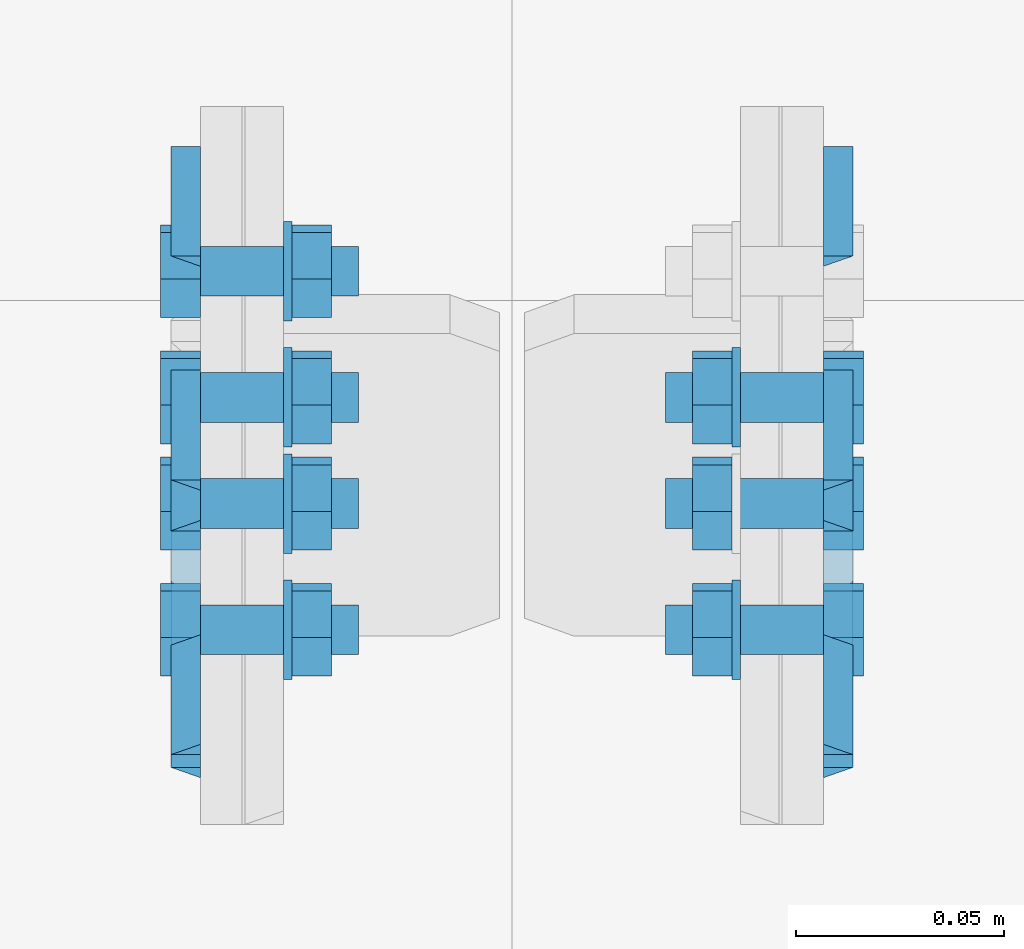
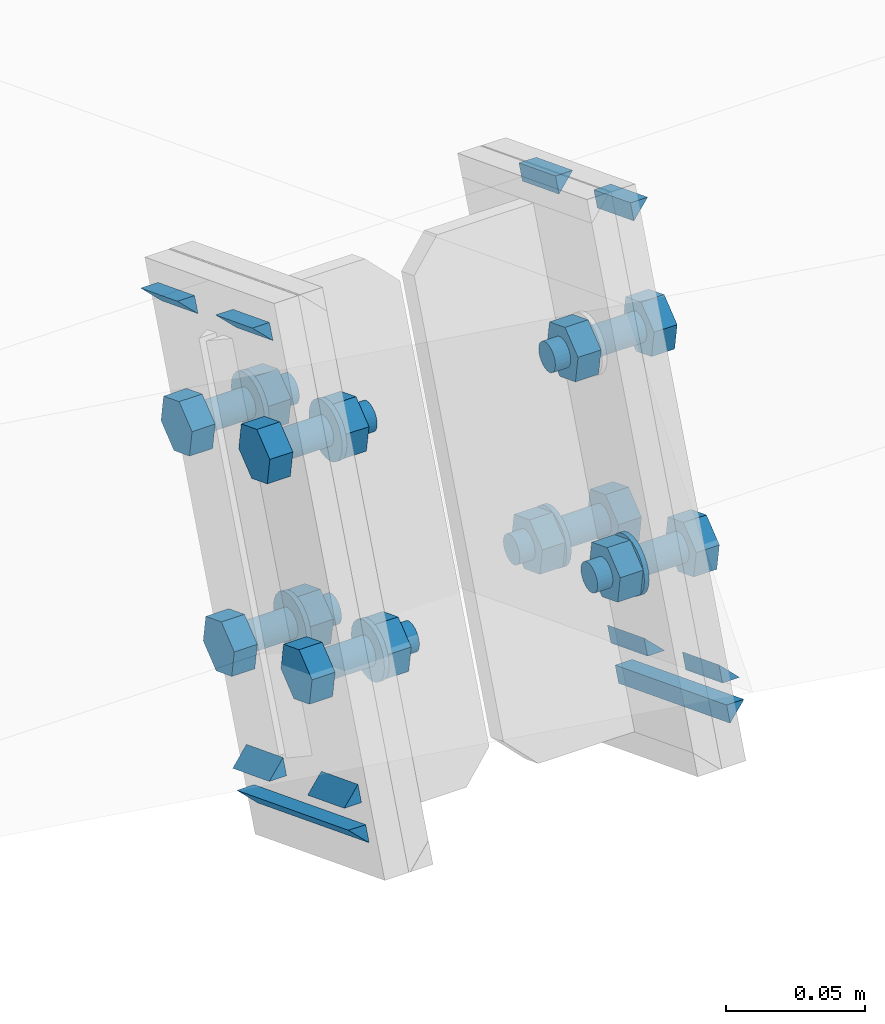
# One storey, part 31 of 72: 27 mechanical fasteners, 20 fasteners.
"""IFC4 building model written with IfcOpenShell, lengths in metres."""

from ifc_helpers import new_model, si_unit, frame, origin_with_axes, place, context, project, spatial, polyline, outline, extrude, type_object, element, save


model = new_model("IFC4")

# Units and contexts
model_context = context("Model", 3, precision=1e-05, world=origin_with_axes())
ifc_project = project(units=[si_unit("LENGTHUNIT", "METRE"), si_unit("AREAUNIT", "SQUARE_METRE"), si_unit("VOLUMEUNIT", "CUBIC_METRE"), si_unit("MASSUNIT", "GRAM", prefix="KILO"), si_unit("TIMEUNIT", "SECOND"), si_unit("PLANEANGLEUNIT", "RADIAN"), si_unit("SOLIDANGLEUNIT", "STERADIAN"), si_unit("THERMODYNAMICTEMPERATUREUNIT", "DEGREE_CELSIUS")], contexts=[model_context])

# Site, building, storey
placement_1 = place(None, origin_with_axes())
site = spatial("IfcSite", under=ifc_project, at=placement_1, Name="Italia", CompositionType="ELEMENT")
building = spatial("IfcBuilding", under=site, at=placement_1, Name="Uffici", CompositionType="ELEMENT")
storey = spatial("IfcBuildingStorey", under=building, at=placement_1, Name="Storey 0", CompositionType="ELEMENT", Elevation=0.0)

# Fasteners
fastener_type_1 = type_object("IfcFastenerType", Name="Collegamento -017_-016", PredefinedType="WELD")
placement_2 = place(placement_1, origin_with_axes())
fastener_1_placement = place(placement_2, origin_with_axes())
element("IfcFastener", 1, at=fastener_1_placement, inside=storey, type_object=fastener_type_1, Name="Collegamento -017_-016", context=model_context, shape_type="SweptSolid", body=[
    extrude(outline(polyline([(0.0, 0.0), (-0.00717354, 0.00695848), (0.0, 0.00695848), (0.0, 0.0)])), frame((3.13005, 3.30124, 5.94341), z_axis=(0.0, -0.93237841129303, 0.361483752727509), x_axis=(1.0, 0.0, 0.0)), (0.0, 0.0, 1.0), 0.0283002),
])
fastener_type_2 = type_object("IfcFastenerType", Name="Collegamento -017_-016", PredefinedType="WELD")
fastener_2_placement = place(placement_2, origin_with_axes())
element("IfcFastener", 2, at=fastener_2_placement, inside=storey, type_object=fastener_type_2, Name="Collegamento -017_-016", context=model_context, shape_type="SweptSolid", body=[
    extrude(outline(polyline([(0.0, 0.0), (0.00717354, -0.00695848), (0.0, -0.00695848), (0.0, 0.0)])), frame((3.13005, 3.2137, 5.79589), z_axis=(0.0, 0.932389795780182, -0.361454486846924), x_axis=(-1.0, 0.0, 0.0)), (0.0, 0.0, 1.0), 0.0282999),
])
fastener_type_3 = type_object("IfcFastenerType", Name="Collegamento -017_-016", PredefinedType="WELD")
fastener_3_placement = place(placement_2, origin_with_axes())
element("IfcFastener", 3, at=fastener_3_placement, inside=storey, type_object=fastener_type_3, Name="Collegamento -017_-016", context=model_context, shape_type="SweptSolid", body=[
    extrude(outline(polyline([(0.0, 0.0), (-0.00717354, 0.00695848), (0.0, 0.00695848), (0.0, 0.0)])), frame((3.13005, 3.23202, 5.76485), z_axis=(0.0, -0.932387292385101, 0.361460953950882), x_axis=(1.0, 0.0, 0.0)), (0.0, 0.0, 1.0), 0.0860998),
])
fastener_type_4 = type_object("IfcFastenerType", Name="Collegamento -017_-016", PredefinedType="WELD")
fastener_4_placement = place(placement_2, origin_with_axes())
element("IfcFastener", 4, at=fastener_4_placement, inside=storey, type_object=fastener_type_4, Name="Collegamento -017_-016", context=model_context, shape_type="SweptSolid", body=[
    extrude(outline(polyline([(0.0, 0.0), (0.00717354, -0.00695801), (0.0, -0.00695801), (0.0, 0.0)])), frame((3.13005, 3.1598, 5.81678), z_axis=(0.0, 0.932380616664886, -0.361478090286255), x_axis=(-1.0, 0.0, 0.0)), (0.0, 0.0, 1.0), 0.0283007),
])
fastener_type_5 = type_object("IfcFastenerType", Name="Collegamento -017_-016", PredefinedType="WELD")
fastener_5_placement = place(placement_2, origin_with_axes())
element("IfcFastener", 5, at=fastener_5_placement, inside=storey, type_object=fastener_type_5, Name="Collegamento -017_-016", context=model_context, shape_type="SweptSolid", body=[
    extrude(outline(polyline([(0.0, 0.0), (-0.00717354, 0.00695801), (0.0, 0.00695801), (0.0, 0.0)])), frame((3.13005, 3.24734, 5.9643), z_axis=(0.0, -0.932387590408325, 0.361460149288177), x_axis=(1.0, 0.0, 0.0)), (0.0, 0.0, 1.0), 0.0282994),
])
fastener_type_6 = type_object("IfcFastenerType", Name="Collegamento -017_-016", PredefinedType="WELD")
fastener_6_placement = place(placement_2, origin_with_axes())
element("IfcFastener", 6, at=fastener_6_placement, inside=storey, type_object=fastener_type_6, Name="Collegamento -017_-016", context=model_context, shape_type="SweptSolid", body=[
    extrude(outline(polyline([(0.0, 0.0), (-0.00717354, 0.00695848), (0.0, 0.00695848), (0.0, 0.0)])), frame((3.13005, 3.30124, 5.94341), z_axis=(0.0, -0.93237841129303, 0.361483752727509), x_axis=(1.0, 0.0, 0.0)), (0.0, 0.0, 1.0), 0.0283002),
])
fastener_type_7 = type_object("IfcFastenerType", Name="Collegamento -017_-016", PredefinedType="WELD")
fastener_7_placement = place(placement_2, origin_with_axes())
element("IfcFastener", 7, at=fastener_7_placement, inside=storey, type_object=fastener_type_7, Name="Collegamento -017_-016", context=model_context, shape_type="SweptSolid", body=[
    extrude(outline(polyline([(0.0, 0.0), (0.00717354, -0.00695848), (0.0, -0.00695848), (0.0, 0.0)])), frame((3.13005, 3.2137, 5.79589), z_axis=(0.0, 0.932389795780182, -0.361454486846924), x_axis=(-1.0, 0.0, 0.0)), (0.0, 0.0, 1.0), 0.0282999),
])
fastener_type_8 = type_object("IfcFastenerType", Name="Collegamento -017_-016", PredefinedType="WELD")
fastener_8_placement = place(placement_2, origin_with_axes())
element("IfcFastener", 8, at=fastener_8_placement, inside=storey, type_object=fastener_type_8, Name="Collegamento -017_-016", context=model_context, shape_type="SweptSolid", body=[
    extrude(outline(polyline([(0.0, 0.0), (-0.00717354, 0.00695848), (0.0, 0.00695848), (0.0, 0.0)])), frame((3.13005, 3.23202, 5.76485), z_axis=(0.0, -0.932387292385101, 0.361460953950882), x_axis=(1.0, 0.0, 0.0)), (0.0, 0.0, 1.0), 0.0860998),
])
fastener_type_9 = type_object("IfcFastenerType", Name="Collegamento -017_-016", PredefinedType="WELD")
fastener_9_placement = place(placement_2, origin_with_axes())
element("IfcFastener", 9, at=fastener_9_placement, inside=storey, type_object=fastener_type_9, Name="Collegamento -017_-016", context=model_context, shape_type="SweptSolid", body=[
    extrude(outline(polyline([(0.0, 0.0), (0.00717354, -0.00695801), (0.0, -0.00695801), (0.0, 0.0)])), frame((3.13005, 3.1598, 5.81678), z_axis=(0.0, 0.932380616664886, -0.361478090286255), x_axis=(-1.0, 0.0, 0.0)), (0.0, 0.0, 1.0), 0.0283007),
])
fastener_type_10 = type_object("IfcFastenerType", Name="Collegamento -017_-016", PredefinedType="WELD")
fastener_10_placement = place(placement_2, origin_with_axes())
element("IfcFastener", 10, at=fastener_10_placement, inside=storey, type_object=fastener_type_10, Name="Collegamento -017_-016", context=model_context, shape_type="SweptSolid", body=[
    extrude(outline(polyline([(0.0, 0.0), (-0.00717354, 0.00695801), (0.0, 0.00695801), (0.0, 0.0)])), frame((3.13005, 3.24734, 5.9643), z_axis=(0.0, -0.932387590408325, 0.361460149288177), x_axis=(1.0, 0.0, 0.0)), (0.0, 0.0, 1.0), 0.0282994),
])

# Mechanical fasteners
mechanical_fastener_type_1 = type_object("IfcMechanicalFastenerType", Name="Collegamento -017_-016", PredefinedType="BOLT")
mechanical_fastener_1_placement = place(placement_2, origin_with_axes())
element("IfcMechanicalFastener", 11, at=mechanical_fastener_1_placement, inside=storey, type_object=mechanical_fastener_type_1, Name="Collegamento -017_-016", NominalDiameter=0.0119999, context=model_context, shape_type="SweptSolid", body=[
    extrude(outline(polyline([(0.0, 0.0), (-0.0111887, -0.00433731), (-0.0205395, 0.00318336), (-0.0187016, 0.0150418), (-0.00751281, 0.0193796), (0.00183773, 0.0118585), (0.0, 0.0)])), frame((3.13, 3.23396, 5.82257), z_axis=(-1.0, 0.0, 0.0), x_axis=(0.0, -1.0, 0.0)), (0.0, 0.0, 1.0), 0.00959992),
])
mechanical_fastener_type_2 = type_object("IfcMechanicalFastenerType", Name="Collegamento -017_-016", PredefinedType="BOLT")
mechanical_fastener_2_placement = place(placement_2, origin_with_axes())
element("IfcMechanicalFastener", 12, at=mechanical_fastener_2_placement, inside=storey, type_object=mechanical_fastener_type_2, Name="Collegamento -017_-016", NominalDiameter=0.012, context=model_context, shape_type="SweptSolid", body=[
    extrude(outline(polyline([(0.0, 0.0), (-0.000204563, -0.00155306), (-0.000803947, -0.00299978), (-0.00175738, -0.00424242), (-0.00300002, -0.00519609), (-0.00444722, -0.00579548), (-0.00600004, -0.00600004), (-0.00755286, -0.00579548), (-0.00900006, -0.00519609), (-0.0102427, -0.00424242), (-0.0111961, -0.00299978), (-0.0117955, -0.00155306), (-0.0120001, 0.0), (-0.0117955, 0.00155306), (-0.0111961, 0.00299978), (-0.0102427, 0.00424242), (-0.00900006, 0.00519609), (-0.00755286, 0.00579548), (-0.00600004, 0.00600004), (-0.00444722, 0.00579548), (-0.00300002, 0.00519609), (-0.00175738, 0.00424242), (-0.000803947, 0.00299978), (-0.000204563, 0.00155306), (0.0, 0.0)])), frame((3.168, 3.23731, 5.83009), z_axis=(-1.0, 0.0, 0.0), x_axis=(0.0, -1.0, 0.0)), (0.0, 0.0, 1.0), 0.0379999),
])
mechanical_fastener_type_3 = type_object("IfcMechanicalFastenerType", Name="Collegamento -017_-016", PredefinedType="BOLT")
mechanical_fastener_3_placement = place(placement_2, origin_with_axes())
element("IfcMechanicalFastener", 13, at=mechanical_fastener_3_placement, inside=storey, type_object=mechanical_fastener_type_3, Name="Collegamento -017_-016", NominalDiameter=0.0119999, context=model_context, shape_type="SweptSolid", body=[
    extrude(outline(polyline([(0.0, 0.0), (-0.0111887, -0.00433731), (-0.0205395, 0.00318336), (-0.0187016, 0.0150418), (-0.00751281, 0.0193796), (0.00183773, 0.0118585), (0.0, 0.0)])), frame((3.1616, 3.23396, 5.82257), z_axis=(-1.0, 0.0, 0.0), x_axis=(0.0, -1.0, 0.0)), (0.0, 0.0, 1.0), 0.00959992),
])
mechanical_fastener_type_4 = type_object("IfcMechanicalFastenerType", Name="Collegamento -017_-016", PredefinedType="BOLT")
mechanical_fastener_4_placement = place(placement_2, origin_with_axes())
element("IfcMechanicalFastener", 14, at=mechanical_fastener_4_placement, inside=storey, type_object=mechanical_fastener_type_4, Name="Collegamento -017_-016", NominalDiameter=0.024, context=model_context, shape_type="SweptSolid", body=[
    extrude(outline(polyline([(0.0, 0.0), (-0.000408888, -0.00310564), (-0.00160789, -0.00600004), (-0.00351477, -0.00848532), (-0.00600004, -0.0103922), (-0.00889421, -0.011591), (-0.0120001, -0.0120001), (-0.015106, -0.011591), (-0.0180001, -0.0103922), (-0.0204854, -0.00848532), (-0.0223923, -0.00600004), (-0.0235913, -0.00310564), (-0.0240002, 0.0), (-0.0235913, 0.00310564), (-0.0223923, 0.00600004), (-0.0204854, 0.00848532), (-0.0180001, 0.0103922), (-0.015106, 0.011591), (-0.0120001, 0.0120001), (-0.00889421, 0.011591), (-0.00600004, 0.0103922), (-0.00351477, 0.00848532), (-0.00160789, 0.00600004), (-0.000408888, 0.00310564), (0.0, 0.0)])), frame((3.152, 3.23131, 5.83009), z_axis=(-1.0, 0.0, 0.0), x_axis=(0.0, -1.0, 0.0)), (0.0, 0.0, 1.0), 0.00200009),
])
mechanical_fastener_type_5 = type_object("IfcMechanicalFastenerType", Name="Collegamento -017_-016", PredefinedType="BOLT")
mechanical_fastener_5_placement = place(placement_2, origin_with_axes())
element("IfcMechanicalFastener", 15, at=mechanical_fastener_5_placement, inside=storey, type_object=mechanical_fastener_type_5, Name="Collegamento -017_-016", NominalDiameter=0.0119997, context=model_context, shape_type="SweptSolid", body=[
    extrude(outline(polyline([(0.0, 0.0), (-0.0111887, -0.00433779), (-0.0205395, 0.00318336), (-0.0187016, 0.0150418), (-0.00751281, 0.0193791), (0.00183773, 0.0118585), (0.0, 0.0)])), frame((3.13, 3.17802, 5.84426), z_axis=(-1.0, 0.0, 0.0), x_axis=(0.0, -1.0, 0.0)), (0.0, 0.0, 1.0), 0.00959992),
])
mechanical_fastener_type_6 = type_object("IfcMechanicalFastenerType", Name="Collegamento -017_-016", PredefinedType="BOLT")
mechanical_fastener_6_placement = place(placement_2, origin_with_axes())
element("IfcMechanicalFastener", 16, at=mechanical_fastener_6_placement, inside=storey, type_object=mechanical_fastener_type_6, Name="Collegamento -017_-016", NominalDiameter=0.012, context=model_context, shape_type="SweptSolid", body=[
    extrude(outline(polyline([(0.0, 0.0), (-0.000204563, -0.00155306), (-0.000803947, -0.00299978), (-0.00175738, -0.00424242), (-0.00300002, -0.00519609), (-0.00444722, -0.00579548), (-0.00600004, -0.00600004), (-0.00755286, -0.00579548), (-0.00900006, -0.00519609), (-0.0102427, -0.00424242), (-0.0111961, -0.00299978), (-0.0117955, -0.00155306), (-0.0120001, 0.0), (-0.0117955, 0.00155306), (-0.0111961, 0.00299978), (-0.0102427, 0.00424242), (-0.00900006, 0.00519609), (-0.00755286, 0.00579548), (-0.00600004, 0.00600004), (-0.00444722, 0.00579548), (-0.00300002, 0.00519609), (-0.00175738, 0.00424242), (-0.000803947, 0.00299978), (-0.000204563, 0.00155306), (0.0, 0.0)])), frame((3.168, 3.18137, 5.85178), z_axis=(-1.0, 0.0, 0.0), x_axis=(0.0, -1.0, 0.0)), (0.0, 0.0, 1.0), 0.0379999),
])
mechanical_fastener_type_7 = type_object("IfcMechanicalFastenerType", Name="Collegamento -017_-016", PredefinedType="BOLT")
mechanical_fastener_7_placement = place(placement_2, origin_with_axes())
element("IfcMechanicalFastener", 17, at=mechanical_fastener_7_placement, inside=storey, type_object=mechanical_fastener_type_7, Name="Collegamento -017_-016", NominalDiameter=0.0119997, context=model_context, shape_type="SweptSolid", body=[
    extrude(outline(polyline([(0.0, 0.0), (-0.0111887, -0.00433779), (-0.0205395, 0.00318336), (-0.0187016, 0.0150418), (-0.00751281, 0.0193791), (0.00183773, 0.0118585), (0.0, 0.0)])), frame((3.1616, 3.17802, 5.84426), z_axis=(-1.0, 0.0, 0.0), x_axis=(0.0, -1.0, 0.0)), (0.0, 0.0, 1.0), 0.00959992),
])
mechanical_fastener_type_8 = type_object("IfcMechanicalFastenerType", Name="Collegamento -017_-016", PredefinedType="BOLT")
mechanical_fastener_8_placement = place(placement_2, origin_with_axes())
element("IfcMechanicalFastener", 18, at=mechanical_fastener_8_placement, inside=storey, type_object=mechanical_fastener_type_8, Name="Collegamento -017_-016", NominalDiameter=0.024, context=model_context, shape_type="SweptSolid", body=[
    extrude(outline(polyline([(0.0, 0.0), (-0.000408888, -0.00310564), (-0.00160789, -0.00600004), (-0.00351477, -0.00848532), (-0.00600004, -0.0103922), (-0.00889421, -0.011591), (-0.0120001, -0.0120001), (-0.015106, -0.011591), (-0.0180001, -0.0103922), (-0.0204854, -0.00848532), (-0.0223923, -0.00600004), (-0.0235913, -0.00310564), (-0.0240002, 0.0), (-0.0235913, 0.00310564), (-0.0223923, 0.00600004), (-0.0204854, 0.00848532), (-0.0180001, 0.0103922), (-0.015106, 0.011591), (-0.0120001, 0.0120001), (-0.00889421, 0.011591), (-0.00600004, 0.0103922), (-0.00351477, 0.00848532), (-0.00160789, 0.00600004), (-0.000408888, 0.00310564), (0.0, 0.0)])), frame((3.152, 3.17537, 5.85178), z_axis=(-1.0, 0.0, 0.0), x_axis=(0.0, -1.0, 0.0)), (0.0, 0.0, 1.0), 0.00200009),
])
mechanical_fastener_type_9 = type_object("IfcMechanicalFastenerType", Name="Collegamento -017_-016", PredefinedType="BOLT")
mechanical_fastener_9_placement = place(placement_2, origin_with_axes())
element("IfcMechanicalFastener", 19, at=mechanical_fastener_9_placement, inside=storey, type_object=mechanical_fastener_type_9, Name="Collegamento -017_-016", NominalDiameter=0.0119997, context=model_context, shape_type="SweptSolid", body=[
    extrude(outline(polyline([(0.0, 0.0), (-0.0111887, -0.00433731), (-0.0205393, 0.00318336), (-0.0187016, 0.0150418), (-0.00751281, 0.0193796), (0.00183797, 0.0118585), (0.0, 0.0)])), frame((3.13, 3.26432, 5.90089), z_axis=(-1.0, 0.0, 0.0), x_axis=(0.0, -1.0, 0.0)), (0.0, 0.0, 1.0), 0.00959992),
])
mechanical_fastener_type_10 = type_object("IfcMechanicalFastenerType", Name="Collegamento -017_-016", PredefinedType="BOLT")
mechanical_fastener_10_placement = place(placement_2, origin_with_axes())
element("IfcMechanicalFastener", 20, at=mechanical_fastener_10_placement, inside=storey, type_object=mechanical_fastener_type_10, Name="Collegamento -017_-016", NominalDiameter=0.012, context=model_context, shape_type="SweptSolid", body=[
    extrude(outline(polyline([(0.0, 0.0), (-0.000204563, -0.00155306), (-0.000803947, -0.00299978), (-0.00175738, -0.00424242), (-0.00300002, -0.00519609), (-0.00444722, -0.00579548), (-0.00600004, -0.00600004), (-0.00755286, -0.00579548), (-0.00900006, -0.00519609), (-0.0102427, -0.00424242), (-0.0111961, -0.00299978), (-0.0117955, -0.00155306), (-0.0120001, 0.0), (-0.0117955, 0.00155306), (-0.0111961, 0.00299978), (-0.0102427, 0.00424242), (-0.00900006, 0.00519609), (-0.00755286, 0.00579548), (-0.00600004, 0.00600004), (-0.00444722, 0.00579548), (-0.00300002, 0.00519609), (-0.00175738, 0.00424242), (-0.000803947, 0.00299978), (-0.000204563, 0.00155306), (0.0, 0.0)])), frame((3.168, 3.26767, 5.90841), z_axis=(-1.0, 0.0, 0.0), x_axis=(0.0, -1.0, 0.0)), (0.0, 0.0, 1.0), 0.0379999),
])
mechanical_fastener_type_11 = type_object("IfcMechanicalFastenerType", Name="Collegamento -017_-016", PredefinedType="BOLT")
mechanical_fastener_11_placement = place(placement_2, origin_with_axes())
element("IfcMechanicalFastener", 21, at=mechanical_fastener_11_placement, inside=storey, type_object=mechanical_fastener_type_11, Name="Collegamento -017_-016", NominalDiameter=0.0119997, context=model_context, shape_type="SweptSolid", body=[
    extrude(outline(polyline([(0.0, 0.0), (-0.0111887, -0.00433731), (-0.0205393, 0.00318336), (-0.0187016, 0.0150418), (-0.00751281, 0.0193796), (0.00183797, 0.0118585), (0.0, 0.0)])), frame((3.1616, 3.26432, 5.90089), z_axis=(-1.0, 0.0, 0.0), x_axis=(0.0, -1.0, 0.0)), (0.0, 0.0, 1.0), 0.00959992),
])
mechanical_fastener_type_12 = type_object("IfcMechanicalFastenerType", Name="Collegamento -017_-016", PredefinedType="BOLT")
mechanical_fastener_12_placement = place(placement_2, origin_with_axes())
element("IfcMechanicalFastener", 22, at=mechanical_fastener_12_placement, inside=storey, type_object=mechanical_fastener_type_12, Name="Collegamento -017_-016", NominalDiameter=0.024, context=model_context, shape_type="SweptSolid", body=[
    extrude(outline(polyline([(0.0, 0.0), (-0.000408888, -0.00310564), (-0.00160789, -0.00600004), (-0.00351477, -0.00848532), (-0.00600004, -0.0103922), (-0.00889421, -0.011591), (-0.0120001, -0.0120001), (-0.015106, -0.011591), (-0.0180001, -0.0103922), (-0.0204854, -0.00848532), (-0.0223923, -0.00600004), (-0.0235913, -0.00310564), (-0.0240002, 0.0), (-0.0235913, 0.00310564), (-0.0223923, 0.00600004), (-0.0204854, 0.00848532), (-0.0180001, 0.0103922), (-0.015106, 0.011591), (-0.0120001, 0.0120001), (-0.00889421, 0.011591), (-0.00600004, 0.0103922), (-0.00351477, 0.00848532), (-0.00160789, 0.00600004), (-0.000408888, 0.00310564), (0.0, 0.0)])), frame((3.152, 3.26167, 5.90841), z_axis=(-1.0, 0.0, 0.0), x_axis=(0.0, -1.0, 0.0)), (0.0, 0.0, 1.0), 0.00200009),
])
mechanical_fastener_type_13 = type_object("IfcMechanicalFastenerType", Name="Collegamento -017_-016", PredefinedType="BOLT")
mechanical_fastener_13_placement = place(placement_2, origin_with_axes())
element("IfcMechanicalFastener", 23, at=mechanical_fastener_13_placement, inside=storey, type_object=mechanical_fastener_type_13, Name="Collegamento -017_-016", NominalDiameter=0.0119999, context=model_context, shape_type="SweptSolid", body=[
    extrude(outline(polyline([(0.0, 0.0), (-0.0111887, -0.00433779), (-0.0205393, 0.00318336), (-0.0187016, 0.0150418), (-0.00751281, 0.0193791), (0.00183797, 0.0118585), (0.0, 0.0)])), frame((3.13, 3.20838, 5.92258), z_axis=(-1.0, 0.0, 0.0), x_axis=(0.0, -1.0, 0.0)), (0.0, 0.0, 1.0), 0.00959992),
])
mechanical_fastener_type_14 = type_object("IfcMechanicalFastenerType", Name="Collegamento -017_-016", PredefinedType="BOLT")
mechanical_fastener_14_placement = place(placement_2, origin_with_axes())
element("IfcMechanicalFastener", 24, at=mechanical_fastener_14_placement, inside=storey, type_object=mechanical_fastener_type_14, Name="Collegamento -017_-016", NominalDiameter=0.012, context=model_context, shape_type="SweptSolid", body=[
    extrude(outline(polyline([(0.0, 0.0), (-0.000204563, -0.00155306), (-0.000803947, -0.00299978), (-0.00175738, -0.00424242), (-0.00300002, -0.00519609), (-0.00444722, -0.00579548), (-0.00600004, -0.00600004), (-0.00755286, -0.00579548), (-0.00900006, -0.00519609), (-0.0102427, -0.00424242), (-0.0111961, -0.00299978), (-0.0117955, -0.00155306), (-0.0120001, 0.0), (-0.0117955, 0.00155306), (-0.0111961, 0.00299978), (-0.0102427, 0.00424242), (-0.00900006, 0.00519609), (-0.00755286, 0.00579548), (-0.00600004, 0.00600004), (-0.00444722, 0.00579548), (-0.00300002, 0.00519609), (-0.00175738, 0.00424242), (-0.000803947, 0.00299978), (-0.000204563, 0.00155306), (0.0, 0.0)])), frame((3.168, 3.21173, 5.9301), z_axis=(-1.0, 0.0, 0.0), x_axis=(0.0, -1.0, 0.0)), (0.0, 0.0, 1.0), 0.0379999),
])
mechanical_fastener_type_15 = type_object("IfcMechanicalFastenerType", Name="Collegamento -017_-016", PredefinedType="BOLT")
mechanical_fastener_15_placement = place(placement_2, origin_with_axes())
element("IfcMechanicalFastener", 25, at=mechanical_fastener_15_placement, inside=storey, type_object=mechanical_fastener_type_15, Name="Collegamento -017_-016", NominalDiameter=0.0119999, context=model_context, shape_type="SweptSolid", body=[
    extrude(outline(polyline([(0.0, 0.0), (-0.0111887, -0.00433779), (-0.0205393, 0.00318336), (-0.0187016, 0.0150418), (-0.00751281, 0.0193791), (0.00183797, 0.0118585), (0.0, 0.0)])), frame((3.1616, 3.20838, 5.92258), z_axis=(-1.0, 0.0, 0.0), x_axis=(0.0, -1.0, 0.0)), (0.0, 0.0, 1.0), 0.00959992),
])
mechanical_fastener_type_16 = type_object("IfcMechanicalFastenerType", Name="Collegamento -017_-016", PredefinedType="BOLT")
mechanical_fastener_16_placement = place(placement_2, origin_with_axes())
element("IfcMechanicalFastener", 26, at=mechanical_fastener_16_placement, inside=storey, type_object=mechanical_fastener_type_16, Name="Collegamento -017_-016", NominalDiameter=0.024, context=model_context, shape_type="SweptSolid", body=[
    extrude(outline(polyline([(0.0, 0.0), (-0.000408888, -0.00310564), (-0.00160789, -0.00600004), (-0.00351477, -0.00848532), (-0.00600004, -0.0103922), (-0.00889421, -0.011591), (-0.0120001, -0.0120001), (-0.015106, -0.011591), (-0.0180001, -0.0103922), (-0.0204854, -0.00848532), (-0.0223923, -0.00600004), (-0.0235913, -0.00310564), (-0.0240002, 0.0), (-0.0235913, 0.00310564), (-0.0223923, 0.00600004), (-0.0204854, 0.00848532), (-0.0180001, 0.0103922), (-0.015106, 0.011591), (-0.0120001, 0.0120001), (-0.00889421, 0.011591), (-0.00600004, 0.0103922), (-0.00351477, 0.00848532), (-0.00160789, 0.00600004), (-0.000408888, 0.00310564), (0.0, 0.0)])), frame((3.152, 3.20573, 5.9301), z_axis=(-1.0, 0.0, 0.0), x_axis=(0.0, -1.0, 0.0)), (0.0, 0.0, 1.0), 0.00200009),
])

# Fasteners
fastener_type_11 = type_object("IfcFastenerType", Name="Collegamento -017_-018", PredefinedType="WELD")
fastener_11_placement = place(placement_2, origin_with_axes())
element("IfcFastener", 27, at=fastener_11_placement, inside=storey, type_object=fastener_type_11, Name="Collegamento -017_-018", context=model_context, shape_type="SweptSolid", body=[
    extrude(outline(polyline([(0.0, 0.0), (-0.00717354, 0.00695801), (0.0, 0.00695801), (0.0, 0.0)])), frame((3.27995, 3.27485, 5.95364), z_axis=(0.0, 0.93237841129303, -0.361483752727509), x_axis=(-1.0, 0.0, 0.0)), (0.0, 0.0, 1.0), 0.0283002),
])
fastener_type_12 = type_object("IfcFastenerType", Name="Collegamento -017_-018", PredefinedType="WELD")
fastener_12_placement = place(placement_2, origin_with_axes())
element("IfcFastener", 28, at=fastener_12_placement, inside=storey, type_object=fastener_type_12, Name="Collegamento -017_-018", context=model_context, shape_type="SweptSolid", body=[
    extrude(outline(polyline([(0.0, 0.0), (0.00717354, -0.00695801), (0.0, -0.00695801), (0.0, 0.0)])), frame((3.27995, 3.24008, 5.78566), z_axis=(0.0, -0.932389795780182, 0.361454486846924), x_axis=(1.0, 0.0, 0.0)), (0.0, 0.0, 1.0), 0.0282999),
])
fastener_type_13 = type_object("IfcFastenerType", Name="Collegamento -017_-018", PredefinedType="WELD")
fastener_13_placement = place(placement_2, origin_with_axes())
element("IfcFastener", 29, at=fastener_13_placement, inside=storey, type_object=fastener_type_13, Name="Collegamento -017_-018", context=model_context, shape_type="SweptSolid", body=[
    extrude(outline(polyline([(0.0, 0.0), (-0.00717354, 0.00695848), (0.0, 0.00695848), (0.0, 0.0)])), frame((3.27995, 3.15174, 5.79598), z_axis=(0.0, 0.932387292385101, -0.361460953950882), x_axis=(-1.0, 0.0, 0.0)), (0.0, 0.0, 1.0), 0.0860998),
])
fastener_type_14 = type_object("IfcFastenerType", Name="Collegamento -017_-018", PredefinedType="WELD")
fastener_14_placement = place(placement_2, origin_with_axes())
element("IfcFastener", 30, at=fastener_14_placement, inside=storey, type_object=fastener_type_14, Name="Collegamento -017_-018", context=model_context, shape_type="SweptSolid", body=[
    extrude(outline(polyline([(0.0, 0.0), (0.00717354, -0.00695753), (0.0, -0.00695753), (0.0, 0.0)])), frame((3.27995, 3.18619, 5.80655), z_axis=(0.0, -0.932380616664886, 0.361478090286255), x_axis=(1.0, 0.0, 0.0)), (0.0, 0.0, 1.0), 0.0283007),
])
fastener_type_15 = type_object("IfcFastenerType", Name="Collegamento -017_-018", PredefinedType="WELD")
fastener_15_placement = place(placement_2, origin_with_axes())
element("IfcFastener", 31, at=fastener_15_placement, inside=storey, type_object=fastener_type_15, Name="Collegamento -017_-018", context=model_context, shape_type="SweptSolid", body=[
    extrude(outline(polyline([(0.0, 0.0), (-0.00717354, 0.00695801), (0.0, 0.00695801), (0.0, 0.0)])), frame((3.27995, 3.22096, 5.97453), z_axis=(0.0, 0.932388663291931, -0.361457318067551), x_axis=(-1.0, 0.0, 0.0)), (0.0, 0.0, 1.0), 0.0282996),
])
fastener_type_16 = type_object("IfcFastenerType", Name="Collegamento -017_-018", PredefinedType="WELD")
fastener_16_placement = place(placement_2, origin_with_axes())
element("IfcFastener", 32, at=fastener_16_placement, inside=storey, type_object=fastener_type_16, Name="Collegamento -017_-018", context=model_context, shape_type="SweptSolid", body=[
    extrude(outline(polyline([(0.0, 0.0), (-0.00717354, 0.00695801), (0.0, 0.00695801), (0.0, 0.0)])), frame((3.27995, 3.27485, 5.95364), z_axis=(0.0, 0.93237841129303, -0.361483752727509), x_axis=(-1.0, 0.0, 0.0)), (0.0, 0.0, 1.0), 0.0283002),
])
fastener_type_17 = type_object("IfcFastenerType", Name="Collegamento -017_-018", PredefinedType="WELD")
fastener_17_placement = place(placement_2, origin_with_axes())
element("IfcFastener", 33, at=fastener_17_placement, inside=storey, type_object=fastener_type_17, Name="Collegamento -017_-018", context=model_context, shape_type="SweptSolid", body=[
    extrude(outline(polyline([(0.0, 0.0), (0.00717354, -0.00695801), (0.0, -0.00695801), (0.0, 0.0)])), frame((3.27995, 3.24008, 5.78566), z_axis=(0.0, -0.932389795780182, 0.361454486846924), x_axis=(1.0, 0.0, 0.0)), (0.0, 0.0, 1.0), 0.0282999),
])
fastener_type_18 = type_object("IfcFastenerType", Name="Collegamento -017_-018", PredefinedType="WELD")
fastener_18_placement = place(placement_2, origin_with_axes())
element("IfcFastener", 34, at=fastener_18_placement, inside=storey, type_object=fastener_type_18, Name="Collegamento -017_-018", context=model_context, shape_type="SweptSolid", body=[
    extrude(outline(polyline([(0.0, 0.0), (-0.00717354, 0.00695848), (0.0, 0.00695848), (0.0, 0.0)])), frame((3.27995, 3.15174, 5.79598), z_axis=(0.0, 0.932387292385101, -0.361460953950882), x_axis=(-1.0, 0.0, 0.0)), (0.0, 0.0, 1.0), 0.0860998),
])
fastener_type_19 = type_object("IfcFastenerType", Name="Collegamento -017_-018", PredefinedType="WELD")
fastener_19_placement = place(placement_2, origin_with_axes())
element("IfcFastener", 35, at=fastener_19_placement, inside=storey, type_object=fastener_type_19, Name="Collegamento -017_-018", context=model_context, shape_type="SweptSolid", body=[
    extrude(outline(polyline([(0.0, 0.0), (0.00717354, -0.00695753), (0.0, -0.00695753), (0.0, 0.0)])), frame((3.27995, 3.18619, 5.80655), z_axis=(0.0, -0.932380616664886, 0.361478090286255), x_axis=(1.0, 0.0, 0.0)), (0.0, 0.0, 1.0), 0.0283007),
])
fastener_type_20 = type_object("IfcFastenerType", Name="Collegamento -017_-018", PredefinedType="WELD")
fastener_20_placement = place(placement_2, origin_with_axes())
element("IfcFastener", 36, at=fastener_20_placement, inside=storey, type_object=fastener_type_20, Name="Collegamento -017_-018", context=model_context, shape_type="SweptSolid", body=[
    extrude(outline(polyline([(0.0, 0.0), (-0.00717354, 0.00695801), (0.0, 0.00695801), (0.0, 0.0)])), frame((3.27995, 3.22096, 5.97453), z_axis=(0.0, 0.932388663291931, -0.361457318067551), x_axis=(-1.0, 0.0, 0.0)), (0.0, 0.0, 1.0), 0.0282996),
])

# Mechanical fasteners
mechanical_fastener_type_17 = type_object("IfcMechanicalFastenerType", Name="Collegamento -017_-018", PredefinedType="BOLT")
mechanical_fastener_17_placement = place(placement_2, origin_with_axes())
element("IfcMechanicalFastener", 37, at=mechanical_fastener_17_placement, inside=storey, type_object=mechanical_fastener_type_17, Name="Collegamento -017_-018", NominalDiameter=0.0119997, context=model_context, shape_type="SweptSolid", body=[
    extrude(outline(polyline([(0.0, 0.0), (-0.0111887, 0.00433779), (-0.0130265, 0.0161963), (-0.00367594, 0.0237169), (0.00751281, 0.0193796), (0.00935078, 0.00752115), (0.0, 0.0)])), frame((3.28, 3.18921, 5.83992), z_axis=(1.0, 0.0, 0.0), x_axis=(0.0, 1.0, 0.0)), (0.0, 0.0, 1.0), 0.00959992),
])
mechanical_fastener_type_18 = type_object("IfcMechanicalFastenerType", Name="Collegamento -017_-018", PredefinedType="BOLT")
mechanical_fastener_18_placement = place(placement_2, origin_with_axes())
element("IfcMechanicalFastener", 38, at=mechanical_fastener_18_placement, inside=storey, type_object=mechanical_fastener_type_18, Name="Collegamento -017_-018", NominalDiameter=0.012, context=model_context, shape_type="SweptSolid", body=[
    extrude(outline(polyline([(0.0, 0.0), (-0.000204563, -0.00155306), (-0.000803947, -0.00299978), (-0.00175738, -0.00424242), (-0.00300002, -0.00519609), (-0.00444722, -0.00579548), (-0.00600004, -0.00600004), (-0.00755286, -0.00579548), (-0.00900006, -0.00519609), (-0.0102427, -0.00424242), (-0.0111961, -0.00299978), (-0.0117955, -0.00155306), (-0.0120001, 0.0), (-0.0117955, 0.00155306), (-0.0111961, 0.00299978), (-0.0102427, 0.00424242), (-0.00900006, 0.00519609), (-0.00755286, 0.00579548), (-0.00600004, 0.00600004), (-0.00444722, 0.00579548), (-0.00300002, 0.00519609), (-0.00175738, 0.00424242), (-0.000803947, 0.00299978), (-0.000204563, 0.00155306), (0.0, 0.0)])), frame((3.242, 3.19337, 5.85178), z_axis=(1.0, 0.0, 0.0), x_axis=(0.0, 1.0, 0.0)), (0.0, 0.0, 1.0), 0.0379999),
])
mechanical_fastener_type_19 = type_object("IfcMechanicalFastenerType", Name="Collegamento -017_-018", PredefinedType="BOLT")
mechanical_fastener_19_placement = place(placement_2, origin_with_axes())
element("IfcMechanicalFastener", 39, at=mechanical_fastener_19_placement, inside=storey, type_object=mechanical_fastener_type_19, Name="Collegamento -017_-018", NominalDiameter=0.0119997, context=model_context, shape_type="SweptSolid", body=[
    extrude(outline(polyline([(0.0, 0.0), (-0.0111887, 0.00433779), (-0.0130265, 0.0161963), (-0.00367594, 0.0237169), (0.00751281, 0.0193796), (0.00935078, 0.00752115), (0.0, 0.0)])), frame((3.2484, 3.18921, 5.83992), z_axis=(1.0, 0.0, 0.0), x_axis=(0.0, 1.0, 0.0)), (0.0, 0.0, 1.0), 0.00959992),
])
mechanical_fastener_type_20 = type_object("IfcMechanicalFastenerType", Name="Collegamento -017_-018", PredefinedType="BOLT")
mechanical_fastener_20_placement = place(placement_2, origin_with_axes())
element("IfcMechanicalFastener", 40, at=mechanical_fastener_20_placement, inside=storey, type_object=mechanical_fastener_type_20, Name="Collegamento -017_-018", NominalDiameter=0.024, context=model_context, shape_type="SweptSolid", body=[
    extrude(outline(polyline([(0.0, 0.0), (-0.000408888, -0.00310564), (-0.00160789, -0.00600004), (-0.00351477, -0.00848532), (-0.00600004, -0.0103922), (-0.00889421, -0.011591), (-0.0120001, -0.0120001), (-0.015106, -0.011591), (-0.0180001, -0.0103922), (-0.0204854, -0.00848532), (-0.0223923, -0.00600004), (-0.0235913, -0.00310564), (-0.0240002, 0.0), (-0.0235913, 0.00310564), (-0.0223923, 0.00600004), (-0.0204854, 0.00848532), (-0.0180001, 0.0103922), (-0.015106, 0.011591), (-0.0120001, 0.0120001), (-0.00889421, 0.011591), (-0.00600004, 0.0103922), (-0.00351477, 0.00848532), (-0.00160789, 0.00600004), (-0.000408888, 0.00310564), (0.0, 0.0)])), frame((3.258, 3.19937, 5.85178), z_axis=(1.0, 0.0, 0.0), x_axis=(0.0, 1.0, 0.0)), (0.0, 0.0, 1.0), 0.00200009),
])
mechanical_fastener_type_21 = type_object("IfcMechanicalFastenerType", Name="Collegamento -017_-018", PredefinedType="BOLT")
mechanical_fastener_21_placement = place(placement_2, origin_with_axes())
element("IfcMechanicalFastener", 41, at=mechanical_fastener_21_placement, inside=storey, type_object=mechanical_fastener_type_21, Name="Collegamento -017_-018", NominalDiameter=0.0119999, context=model_context, shape_type="SweptSolid", body=[
    extrude(outline(polyline([(0.0, 0.0), (-0.0111887, 0.00433731), (-0.0130265, 0.0161958), (-0.00367594, 0.0237169), (0.00751281, 0.0193791), (0.00935078, 0.00752068), (0.0, 0.0)])), frame((3.28, 3.24515, 5.81823), z_axis=(1.0, 0.0, 0.0), x_axis=(0.0, 1.0, 0.0)), (0.0, 0.0, 1.0), 0.00959992),
])
mechanical_fastener_type_22 = type_object("IfcMechanicalFastenerType", Name="Collegamento -017_-018", PredefinedType="BOLT")
mechanical_fastener_22_placement = place(placement_2, origin_with_axes())
element("IfcMechanicalFastener", 42, at=mechanical_fastener_22_placement, inside=storey, type_object=mechanical_fastener_type_22, Name="Collegamento -017_-018", NominalDiameter=0.012, context=model_context, shape_type="SweptSolid", body=[
    extrude(outline(polyline([(0.0, 0.0), (-0.000204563, -0.00155306), (-0.000803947, -0.00299978), (-0.00175738, -0.00424242), (-0.00300002, -0.00519609), (-0.00444722, -0.00579548), (-0.00600004, -0.00600004), (-0.00755286, -0.00579548), (-0.00900006, -0.00519609), (-0.0102427, -0.00424242), (-0.0111961, -0.00299978), (-0.0117955, -0.00155306), (-0.0120001, 0.0), (-0.0117955, 0.00155306), (-0.0111961, 0.00299978), (-0.0102427, 0.00424242), (-0.00900006, 0.00519609), (-0.00755286, 0.00579548), (-0.00600004, 0.00600004), (-0.00444722, 0.00579548), (-0.00300002, 0.00519609), (-0.00175738, 0.00424242), (-0.000803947, 0.00299978), (-0.000204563, 0.00155306), (0.0, 0.0)])), frame((3.242, 3.24931, 5.83009), z_axis=(1.0, 0.0, 0.0), x_axis=(0.0, 1.0, 0.0)), (0.0, 0.0, 1.0), 0.0379999),
])
mechanical_fastener_type_23 = type_object("IfcMechanicalFastenerType", Name="Collegamento -017_-018", PredefinedType="BOLT")
mechanical_fastener_23_placement = place(placement_2, origin_with_axes())
element("IfcMechanicalFastener", 43, at=mechanical_fastener_23_placement, inside=storey, type_object=mechanical_fastener_type_23, Name="Collegamento -017_-018", NominalDiameter=0.0119999, context=model_context, shape_type="SweptSolid", body=[
    extrude(outline(polyline([(0.0, 0.0), (-0.0111887, 0.00433731), (-0.0130265, 0.0161958), (-0.00367594, 0.0237169), (0.00751281, 0.0193791), (0.00935078, 0.00752068), (0.0, 0.0)])), frame((3.2484, 3.24515, 5.81823), z_axis=(1.0, 0.0, 0.0), x_axis=(0.0, 1.0, 0.0)), (0.0, 0.0, 1.0), 0.00959992),
])
mechanical_fastener_type_24 = type_object("IfcMechanicalFastenerType", Name="Collegamento -017_-018", PredefinedType="BOLT")
mechanical_fastener_24_placement = place(placement_2, origin_with_axes())
element("IfcMechanicalFastener", 44, at=mechanical_fastener_24_placement, inside=storey, type_object=mechanical_fastener_type_24, Name="Collegamento -017_-018", NominalDiameter=0.024, context=model_context, shape_type="SweptSolid", body=[
    extrude(outline(polyline([(0.0, 0.0), (-0.000408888, -0.00310564), (-0.00160789, -0.00600004), (-0.00351477, -0.00848532), (-0.00600004, -0.0103922), (-0.00889421, -0.011591), (-0.0120001, -0.0120001), (-0.015106, -0.011591), (-0.0180001, -0.0103922), (-0.0204854, -0.00848532), (-0.0223923, -0.00600004), (-0.0235913, -0.00310564), (-0.0240002, 0.0), (-0.0235913, 0.00310564), (-0.0223923, 0.00600004), (-0.0204854, 0.00848532), (-0.0180001, 0.0103922), (-0.015106, 0.011591), (-0.0120001, 0.0120001), (-0.00889421, 0.011591), (-0.00600004, 0.0103922), (-0.00351477, 0.00848532), (-0.00160789, 0.00600004), (-0.000408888, 0.00310564), (0.0, 0.0)])), frame((3.258, 3.25531, 5.83009), z_axis=(1.0, 0.0, 0.0), x_axis=(0.0, 1.0, 0.0)), (0.0, 0.0, 1.0), 0.00200009),
])
mechanical_fastener_type_25 = type_object("IfcMechanicalFastenerType", Name="Collegamento -017_-018", PredefinedType="BOLT")
mechanical_fastener_25_placement = place(placement_2, origin_with_axes())
element("IfcMechanicalFastener", 45, at=mechanical_fastener_25_placement, inside=storey, type_object=mechanical_fastener_type_25, Name="Collegamento -017_-018", NominalDiameter=0.0119999, context=model_context, shape_type="SweptSolid", body=[
    extrude(outline(polyline([(0.0, 0.0), (-0.0111887, 0.00433779), (-0.0130267, 0.0161963), (-0.00367594, 0.0237169), (0.00751281, 0.0193796), (0.00935054, 0.00752115), (0.0, 0.0)])), frame((3.28, 3.21957, 5.91824), z_axis=(1.0, 0.0, 0.0), x_axis=(0.0, 1.0, 0.0)), (0.0, 0.0, 1.0), 0.00959992),
])
mechanical_fastener_type_26 = type_object("IfcMechanicalFastenerType", Name="Collegamento -017_-018", PredefinedType="BOLT")
mechanical_fastener_26_placement = place(placement_2, origin_with_axes())
element("IfcMechanicalFastener", 46, at=mechanical_fastener_26_placement, inside=storey, type_object=mechanical_fastener_type_26, Name="Collegamento -017_-018", NominalDiameter=0.012, context=model_context, shape_type="SweptSolid", body=[
    extrude(outline(polyline([(0.0, 0.0), (-0.000204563, -0.00155306), (-0.000803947, -0.00299978), (-0.00175738, -0.00424242), (-0.00300002, -0.00519609), (-0.00444722, -0.00579548), (-0.00600004, -0.00600004), (-0.00755286, -0.00579548), (-0.00900006, -0.00519609), (-0.0102427, -0.00424242), (-0.0111961, -0.00299978), (-0.0117955, -0.00155306), (-0.0120001, 0.0), (-0.0117955, 0.00155306), (-0.0111961, 0.00299978), (-0.0102427, 0.00424242), (-0.00900006, 0.00519609), (-0.00755286, 0.00579548), (-0.00600004, 0.00600004), (-0.00444722, 0.00579548), (-0.00300002, 0.00519609), (-0.00175738, 0.00424242), (-0.000803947, 0.00299978), (-0.000204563, 0.00155306), (0.0, 0.0)])), frame((3.242, 3.22373, 5.9301), z_axis=(1.0, 0.0, 0.0), x_axis=(0.0, 1.0, 0.0)), (0.0, 0.0, 1.0), 0.0379999),
])
mechanical_fastener_type_27 = type_object("IfcMechanicalFastenerType", Name="Collegamento -017_-018", PredefinedType="BOLT")
mechanical_fastener_27_placement = place(placement_2, origin_with_axes())
element("IfcMechanicalFastener", 47, at=mechanical_fastener_27_placement, inside=storey, type_object=mechanical_fastener_type_27, Name="Collegamento -017_-018", NominalDiameter=0.0119999, context=model_context, shape_type="SweptSolid", body=[
    extrude(outline(polyline([(0.0, 0.0), (-0.0111887, 0.00433779), (-0.0130267, 0.0161963), (-0.00367594, 0.0237169), (0.00751281, 0.0193796), (0.00935054, 0.00752115), (0.0, 0.0)])), frame((3.2484, 3.21957, 5.91824), z_axis=(1.0, 0.0, 0.0), x_axis=(0.0, 1.0, 0.0)), (0.0, 0.0, 1.0), 0.00959992),
])

save(model, "model.ifc")
